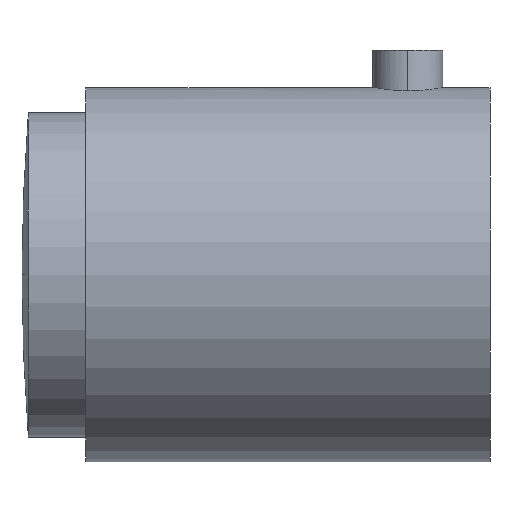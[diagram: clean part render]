
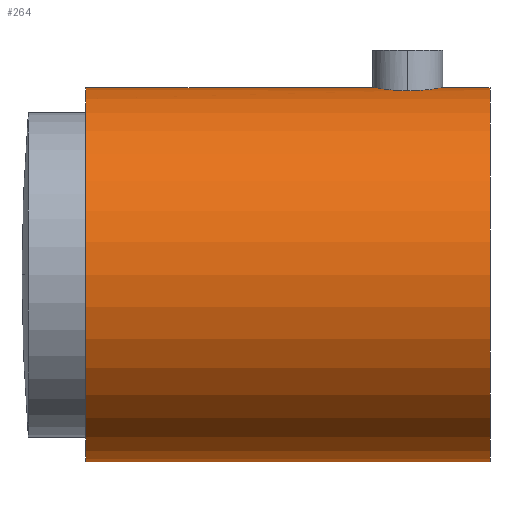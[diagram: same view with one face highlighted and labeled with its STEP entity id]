
A CAD part, left-side view. The second image highlights one B-rep face of the part: STEP entity #264.
In plain terms, the highlighted cylindrical face has radius 12.7 mm (diameter 25.4 mm), a partial arc.
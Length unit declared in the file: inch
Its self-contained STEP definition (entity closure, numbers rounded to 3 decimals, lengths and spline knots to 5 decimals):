
#2 = EDGE_CURVE ( 'NONE', #299, #300, #598, .T. ) ;
#4 = EDGE_CURVE ( 'NONE', #319, #306, #606, .T. ) ;
#5 = EDGE_CURVE ( 'NONE', #311, #319, #588, .T. ) ;
#22 = EDGE_CURVE ( 'NONE', #311, #293, #195, .T. ) ;
#24 = EDGE_CURVE ( 'NONE', #299, #294, #573, .T. ) ;
#26 = EDGE_CURVE ( 'NONE', #300, #306, #218, .T. ) ;
#36 = EDGE_CURVE ( 'NONE', #294, #293, #571, .T. ) ;
#43 = AXIS2_PLACEMENT_3D ( 'NONE', #326, #353, #337 ) ;
#51 = CARTESIAN_POINT ( 'NONE',  ( 0., 0.1265, 0.5 ) ) ;
#53 = CARTESIAN_POINT ( 'NONE',  ( 0., 0., -0.5 ) ) ;
#57 = CARTESIAN_POINT ( 'NONE',  ( 0., 1.08, 0.5 ) ) ;
#58 = CARTESIAN_POINT ( 'NONE',  ( 0., 0., 0.5 ) ) ;
#70 = CARTESIAN_POINT ( 'NONE',  ( -0.0935, 0.22, 0.49118 ) ) ;
#78 = DIRECTION ( 'NONE',  ( 0., 0., -1. ) ) ;
#88 = DIRECTION ( 'NONE',  ( 0., -1., 0. ) ) ;
#89 = CARTESIAN_POINT ( 'NONE',  ( 0., 1.08, -0.5 ) ) ;
#95 = CARTESIAN_POINT ( 'NONE',  ( 0., 0.3135, 0.5 ) ) ;
#98 = CARTESIAN_POINT ( 'NONE',  ( 0., 0., 0. ) ) ;
#143 = FACE_OUTER_BOUND ( 'NONE', #600, .T. ) ;
#150 = CYLINDRICAL_SURFACE ( 'NONE', #152, 0.5 ) ;
#152 = AXIS2_PLACEMENT_3D ( 'NONE', #98, #88, #78 ) ;
#195 = LINE ( 'NONE', #377, #216 ) ;
#216 = VECTOR ( 'NONE', #392, 39.37008 ) ;
#218 = CIRCLE ( 'NONE', #275, 0.5 ) ;
#264 = ADVANCED_FACE ( 'NONE', ( #143 ), #150, .T. ) ;
#275 = AXIS2_PLACEMENT_3D ( 'NONE', #387, #408, #405 ) ;
#293 = VERTEX_POINT ( 'NONE', #95 ) ;
#294 = VERTEX_POINT ( 'NONE', #70 ) ;
#299 = VERTEX_POINT ( 'NONE', #51 ) ;
#300 = VERTEX_POINT ( 'NONE', #58 ) ;
#306 = VERTEX_POINT ( 'NONE', #53 ) ;
#311 = VERTEX_POINT ( 'NONE', #57 ) ;
#316 = CARTESIAN_POINT ( 'NONE',  ( 0., 0., 0.5 ) ) ;
#317 = DIRECTION ( 'NONE',  ( 0., -1., 0. ) ) ;
#319 = VERTEX_POINT ( 'NONE', #89 ) ;
#322 = CARTESIAN_POINT ( 'NONE',  ( 0., 0., -0.5 ) ) ;
#325 = DIRECTION ( 'NONE',  ( 0., -1., 0. ) ) ;
#326 = CARTESIAN_POINT ( 'NONE',  ( 0., 1.08, 0. ) ) ;
#337 = DIRECTION ( 'NONE',  ( 0., 0., -1. ) ) ;
#353 = DIRECTION ( 'NONE',  ( 0., -1., 0. ) ) ;
#377 = CARTESIAN_POINT ( 'NONE',  ( 0., 0., 0.5 ) ) ;
#380 = CARTESIAN_POINT ( 'NONE',  ( -0.05705, 0.14567, 0.49676 ) ) ;
#381 = CARTESIAN_POINT ( 'NONE',  ( 0., 0.1265, 0.5 ) ) ;
#382 = CARTESIAN_POINT ( 'NONE',  ( -0.06179, 0.14955, 0.49619 ) ) ;
#383 = CARTESIAN_POINT ( 'NONE',  ( -0.0811, 0.17307, 0.49339 ) ) ;
#387 = CARTESIAN_POINT ( 'NONE',  ( 0., 0., 0. ) ) ;
#388 = CARTESIAN_POINT ( 'NONE',  ( -0.07048, 0.15825, 0.49503 ) ) ;
#389 = CARTESIAN_POINT ( 'NONE',  ( -0.08872, 0.18985, 0.49207 ) ) ;
#392 = DIRECTION ( 'NONE',  ( 0., -1., 0. ) ) ;
#393 = CARTESIAN_POINT ( 'NONE',  ( -0.00611, 0.1265, 0.5 ) ) ;
#394 = CARTESIAN_POINT ( 'NONE',  ( -0.03015, 0.13128, 0.49912 ) ) ;
#401 = CARTESIAN_POINT ( 'NONE',  ( -0.01232, 0.12711, 0.49988 ) ) ;
#402 = CARTESIAN_POINT ( 'NONE',  ( -0.08403, 0.17855, 0.49289 ) ) ;
#403 = CARTESIAN_POINT ( 'NONE',  ( -0.09289, 0.20769, 0.4913 ) ) ;
#405 = DIRECTION ( 'NONE',  ( 0., 0., -1. ) ) ;
#406 = CARTESIAN_POINT ( 'NONE',  ( -0.07433, 0.16296, 0.49446 ) ) ;
#408 = DIRECTION ( 'NONE',  ( 0., -1., 0. ) ) ;
#409 = CARTESIAN_POINT ( 'NONE',  ( -0.0935, 0.21389, 0.49118 ) ) ;
#410 = CARTESIAN_POINT ( 'NONE',  ( -0.02432, 0.12951, 0.49944 ) ) ;
#411 = CARTESIAN_POINT ( 'NONE',  ( -0.04149, 0.13598, 0.49831 ) ) ;
#412 = CARTESIAN_POINT ( 'NONE',  ( -0.09049, 0.19568, 0.49175 ) ) ;
#417 = CARTESIAN_POINT ( 'NONE',  ( -0.04694, 0.13891, 0.49782 ) ) ;
#423 = CARTESIAN_POINT ( 'NONE',  ( -0.0935, 0.22, 0.49118 ) ) ;
#429 = CARTESIAN_POINT ( 'NONE',  ( -0.0935, 0.22, 0.49118 ) ) ;
#430 = CARTESIAN_POINT ( 'NONE',  ( -0.09104, 0.24455, 0.49166 ) ) ;
#432 = CARTESIAN_POINT ( 'NONE',  ( -0.08404, 0.26144, 0.49289 ) ) ;
#433 = CARTESIAN_POINT ( 'NONE',  ( -0.08112, 0.2669, 0.49339 ) ) ;
#435 = CARTESIAN_POINT ( 'NONE',  ( -0.07431, 0.27708, 0.49446 ) ) ;
#437 = CARTESIAN_POINT ( 'NONE',  ( -0.07045, 0.28178, 0.49503 ) ) ;
#440 = CARTESIAN_POINT ( 'NONE',  ( -0.0935, 0.23222, 0.49118 ) ) ;
#441 = CARTESIAN_POINT ( 'NONE',  ( -0.04153, 0.304, 0.4983 ) ) ;
#444 = CARTESIAN_POINT ( 'NONE',  ( -0.06183, 0.2904, 0.49618 ) ) ;
#445 = CARTESIAN_POINT ( 'NONE',  ( -0.04689, 0.30112, 0.49782 ) ) ;
#446 = CARTESIAN_POINT ( 'NONE',  ( -0.03019, 0.30871, 0.49912 ) ) ;
#447 = CARTESIAN_POINT ( 'NONE',  ( -0.05703, 0.29435, 0.49676 ) ) ;
#448 = CARTESIAN_POINT ( 'NONE',  ( -0.02426, 0.3105, 0.49945 ) ) ;
#449 = CARTESIAN_POINT ( 'NONE',  ( -0.0123, 0.31289, 0.49988 ) ) ;
#463 = CARTESIAN_POINT ( 'NONE',  ( -0.00618, 0.3135, 0.5 ) ) ;
#464 = CARTESIAN_POINT ( 'NONE',  ( 0., 0.3135, 0.5 ) ) ;
#571 = B_SPLINE_CURVE_WITH_KNOTS ( 'NONE', 3,
 ( #429, #440, #430, #432, #433, #435, #437, #444, #447, #445, #441, #446, #448, #449, #463, #464 ),
 .UNSPECIFIED., .F., .F.,
 ( 4, 2, 2, 2, 2, 2, 2, 4 ),
 ( 0.00744, 0.00837, 0.00884, 0.0093, 0.00977, 0.01023, 0.0107, 0.01116 ),
 .UNSPECIFIED. ) ;
#573 = B_SPLINE_CURVE_WITH_KNOTS ( 'NONE', 3,
 ( #381, #393, #401, #410, #394, #411, #417, #380, #382, #388, #406, #383, #402, #389, #412, #403, #409, #423 ),
 .UNSPECIFIED., .F., .F.,
 ( 4, 2, 2, 2, 2, 2, 2, 2, 4 ),
 ( 0.00372, 0.00419, 0.00465, 0.00512, 0.00558, 0.00605, 0.00651, 0.00698, 0.00744 ),
 .UNSPECIFIED. ) ;
#588 = CIRCLE ( 'NONE', #43, 0.5 ) ;
#594 = VECTOR ( 'NONE', #325, 39.37008 ) ;
#598 = LINE ( 'NONE', #316, #602 ) ;
#600 = EDGE_LOOP ( 'NONE', ( #639, #637, #642, #669, #666, #670, #671 ) ) ;
#602 = VECTOR ( 'NONE', #317, 39.37008 ) ;
#606 = LINE ( 'NONE', #322, #594 ) ;
#637 = ORIENTED_EDGE ( 'NONE', *, *, #5, .T. ) ;
#639 = ORIENTED_EDGE ( 'NONE', *, *, #22, .F. ) ;
#642 = ORIENTED_EDGE ( 'NONE', *, *, #4, .T. ) ;
#666 = ORIENTED_EDGE ( 'NONE', *, *, #2, .F. ) ;
#669 = ORIENTED_EDGE ( 'NONE', *, *, #26, .F. ) ;
#670 = ORIENTED_EDGE ( 'NONE', *, *, #24, .T. ) ;
#671 = ORIENTED_EDGE ( 'NONE', *, *, #36, .T. ) ;
